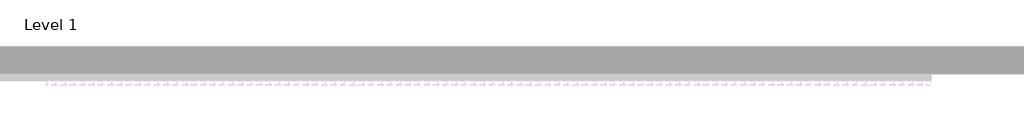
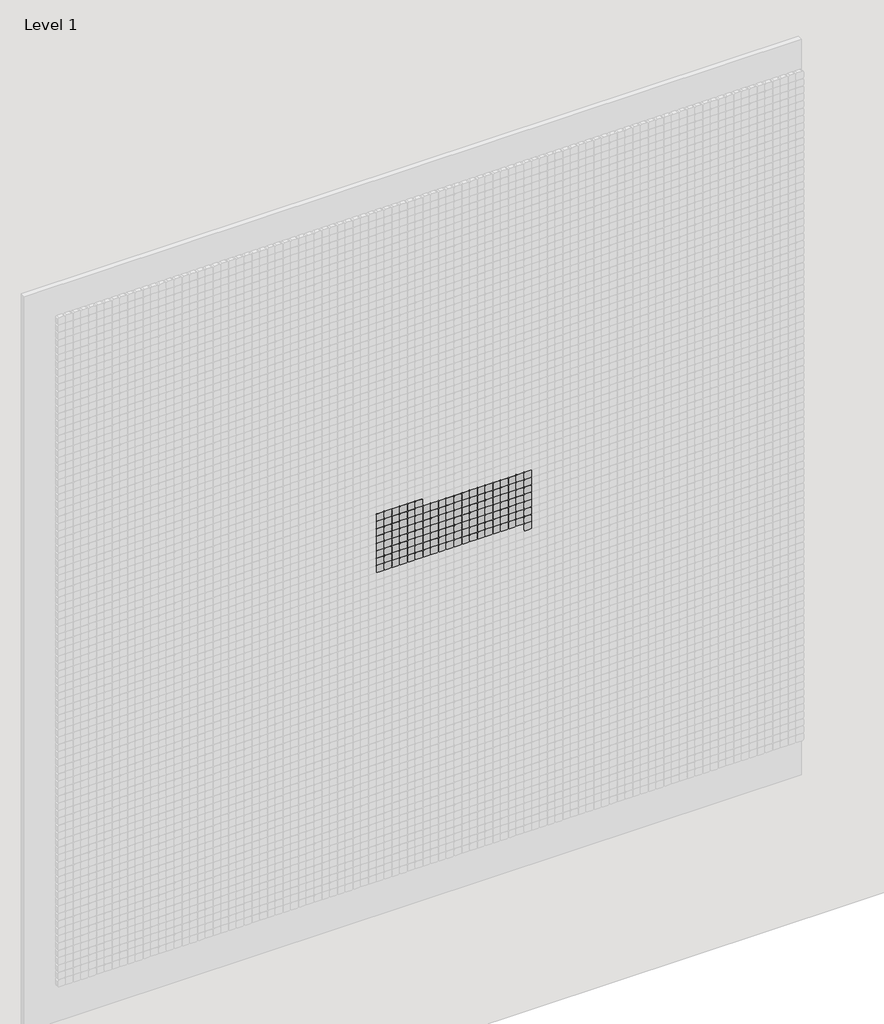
# One storey, part 41 of 71: 147 proxies.
"""IFC4 building model written with IfcOpenShell, lengths in millimetres."""

from ifc_helpers import new_model, si_unit, origin, place, context, project, spatial, transform, mapped, element, save
from components import generic_models_afde289c

model = new_model("IFC4")

# Units and contexts
model_context = context("Model", 3, world=origin())
ifc_project = project(units=[si_unit("LENGTHUNIT", "METRE", prefix="MILLI")], contexts=[model_context])

# Site, building, storey
site = spatial("IfcSite", under=ifc_project)
building = spatial("IfcBuilding", under=site)
storey = spatial("IfcBuildingStorey", under=building, Name="Level 1", Elevation=0.0)

# Proxies
placement = place(None, origin())
generic_models_shape = generic_models_afde289c(model_context)
element("IfcBuildingElementProxy", 1, Name="Pixel_M : Pixel_M", ObjectType="Pixel_M : Pixel_M", at=placement, inside=storey, context=model_context, shape_type="MappedRepresentation", body=[
    mapped(generic_models_shape, transform((7262.4280941, -75.0, 3716.3566215), x_axis=(1.0, 0.0, 0.0), y_axis=(0.0, 0.0, 1.0), z_axis=(0.0, -1.0, 0.0))),
])
element("IfcBuildingElementProxy", 2, Name="Pixel_M : Pixel_M", ObjectType="Pixel_M : Pixel_M", at=placement, inside=storey, context=model_context, shape_type="MappedRepresentation", body=[
    mapped(generic_models_shape, transform((7212.4280941, -75.0, 3716.3566215), x_axis=(1.0, 0.0, 0.0), y_axis=(0.0, 0.0, 1.0), z_axis=(0.0, -1.0, 0.0))),
])
element("IfcBuildingElementProxy", 3, Name="Pixel_M : Pixel_M", ObjectType="Pixel_M : Pixel_M", at=placement, inside=storey, context=model_context, shape_type="MappedRepresentation", body=[
    mapped(generic_models_shape, transform((7162.4280941, -75.0, 3716.3566215), x_axis=(1.0, 0.0, 0.0), y_axis=(0.0, 0.0, 1.0), z_axis=(0.0, -1.0, 0.0))),
])
element("IfcBuildingElementProxy", 4, Name="Pixel_M : Pixel_M", ObjectType="Pixel_M : Pixel_M", at=placement, inside=storey, context=model_context, shape_type="MappedRepresentation", body=[
    mapped(generic_models_shape, transform((7112.4280941, -75.0, 3716.3566215), x_axis=(1.0, 0.0, 0.0), y_axis=(0.0, 0.0, 1.0), z_axis=(0.0, -1.0, 0.0))),
])
element("IfcBuildingElementProxy", 5, Name="Pixel_M : Pixel_M", ObjectType="Pixel_M : Pixel_M", at=placement, inside=storey, context=model_context, shape_type="MappedRepresentation", body=[
    mapped(generic_models_shape, transform((7062.4280941, -75.0, 3716.3566215), x_axis=(1.0, 0.0, 0.0), y_axis=(0.0, 0.0, 1.0), z_axis=(0.0, -1.0, 0.0))),
])
element("IfcBuildingElementProxy", 6, Name="Pixel_M : Pixel_M", ObjectType="Pixel_M : Pixel_M", at=placement, inside=storey, context=model_context, shape_type="MappedRepresentation", body=[
    mapped(generic_models_shape, transform((7012.4280941, -75.0, 3716.3566215), x_axis=(1.0, 0.0, 0.0), y_axis=(0.0, 0.0, 1.0), z_axis=(0.0, -1.0, 0.0))),
])
element("IfcBuildingElementProxy", 7, Name="Pixel_M : Pixel_M", ObjectType="Pixel_M : Pixel_M", at=placement, inside=storey, context=model_context, shape_type="MappedRepresentation", body=[
    mapped(generic_models_shape, transform((7962.4280941, -75.0, 3666.3566215), x_axis=(1.0, 0.0, 0.0), y_axis=(0.0, 0.0, 1.0), z_axis=(0.0, -1.0, 0.0))),
])
element("IfcBuildingElementProxy", 8, Name="Pixel_M : Pixel_M", ObjectType="Pixel_M : Pixel_M", at=placement, inside=storey, context=model_context, shape_type="MappedRepresentation", body=[
    mapped(generic_models_shape, transform((7912.4280941, -75.0, 3666.3566215), x_axis=(1.0, 0.0, 0.0), y_axis=(0.0, 0.0, 1.0), z_axis=(0.0, -1.0, 0.0))),
])
element("IfcBuildingElementProxy", 9, Name="Pixel_M : Pixel_M", ObjectType="Pixel_M : Pixel_M", at=placement, inside=storey, context=model_context, shape_type="MappedRepresentation", body=[
    mapped(generic_models_shape, transform((7862.4280941, -75.0, 3666.3566215), x_axis=(1.0, 0.0, 0.0), y_axis=(0.0, 0.0, 1.0), z_axis=(0.0, -1.0, 0.0))),
])
element("IfcBuildingElementProxy", 10, Name="Pixel_M : Pixel_M", ObjectType="Pixel_M : Pixel_M", at=placement, inside=storey, context=model_context, shape_type="MappedRepresentation", body=[
    mapped(generic_models_shape, transform((7812.4280941, -75.0, 3666.3566215), x_axis=(1.0, 0.0, 0.0), y_axis=(0.0, 0.0, 1.0), z_axis=(0.0, -1.0, 0.0))),
])
element("IfcBuildingElementProxy", 11, Name="Pixel_M : Pixel_M", ObjectType="Pixel_M : Pixel_M", at=placement, inside=storey, context=model_context, shape_type="MappedRepresentation", body=[
    mapped(generic_models_shape, transform((7762.4280941, -75.0, 3666.3566215), x_axis=(1.0, 0.0, 0.0), y_axis=(0.0, 0.0, 1.0), z_axis=(0.0, -1.0, 0.0))),
])
element("IfcBuildingElementProxy", 12, Name="Pixel_M : Pixel_M", ObjectType="Pixel_M : Pixel_M", at=placement, inside=storey, context=model_context, shape_type="MappedRepresentation", body=[
    mapped(generic_models_shape, transform((7712.4280941, -75.0, 3666.3566215), x_axis=(1.0, 0.0, 0.0), y_axis=(0.0, 0.0, 1.0), z_axis=(0.0, -1.0, 0.0))),
])
element("IfcBuildingElementProxy", 13, Name="Pixel_M : Pixel_M", ObjectType="Pixel_M : Pixel_M", at=placement, inside=storey, context=model_context, shape_type="MappedRepresentation", body=[
    mapped(generic_models_shape, transform((7662.4280941, -75.0, 3666.3566215), x_axis=(1.0, 0.0, 0.0), y_axis=(0.0, 0.0, 1.0), z_axis=(0.0, -1.0, 0.0))),
])
element("IfcBuildingElementProxy", 14, Name="Pixel_M : Pixel_M", ObjectType="Pixel_M : Pixel_M", at=placement, inside=storey, context=model_context, shape_type="MappedRepresentation", body=[
    mapped(generic_models_shape, transform((7612.4280941, -75.0, 3666.3566215), x_axis=(1.0, 0.0, 0.0), y_axis=(0.0, 0.0, 1.0), z_axis=(0.0, -1.0, 0.0))),
])
element("IfcBuildingElementProxy", 15, Name="Pixel_M : Pixel_M", ObjectType="Pixel_M : Pixel_M", at=placement, inside=storey, context=model_context, shape_type="MappedRepresentation", body=[
    mapped(generic_models_shape, transform((7562.4280941, -75.0, 3666.3566215), x_axis=(1.0, 0.0, 0.0), y_axis=(0.0, 0.0, 1.0), z_axis=(0.0, -1.0, 0.0))),
])
element("IfcBuildingElementProxy", 16, Name="Pixel_M : Pixel_M", ObjectType="Pixel_M : Pixel_M", at=placement, inside=storey, context=model_context, shape_type="MappedRepresentation", body=[
    mapped(generic_models_shape, transform((7512.4280941, -75.0, 3666.3566215), x_axis=(1.0, 0.0, 0.0), y_axis=(0.0, 0.0, 1.0), z_axis=(0.0, -1.0, 0.0))),
])
element("IfcBuildingElementProxy", 17, Name="Pixel_M : Pixel_M", ObjectType="Pixel_M : Pixel_M", at=placement, inside=storey, context=model_context, shape_type="MappedRepresentation", body=[
    mapped(generic_models_shape, transform((7462.4280941, -75.0, 3666.3566215), x_axis=(1.0, 0.0, 0.0), y_axis=(0.0, 0.0, 1.0), z_axis=(0.0, -1.0, 0.0))),
])
element("IfcBuildingElementProxy", 18, Name="Pixel_M : Pixel_M", ObjectType="Pixel_M : Pixel_M", at=placement, inside=storey, context=model_context, shape_type="MappedRepresentation", body=[
    mapped(generic_models_shape, transform((7412.4280941, -75.0, 3666.3566215), x_axis=(1.0, 0.0, 0.0), y_axis=(0.0, 0.0, 1.0), z_axis=(0.0, -1.0, 0.0))),
])
element("IfcBuildingElementProxy", 19, Name="Pixel_M : Pixel_M", ObjectType="Pixel_M : Pixel_M", at=placement, inside=storey, context=model_context, shape_type="MappedRepresentation", body=[
    mapped(generic_models_shape, transform((7362.4280941, -75.0, 3666.3566215), x_axis=(1.0, 0.0, 0.0), y_axis=(0.0, 0.0, 1.0), z_axis=(0.0, -1.0, 0.0))),
])
element("IfcBuildingElementProxy", 20, Name="Pixel_M : Pixel_M", ObjectType="Pixel_M : Pixel_M", at=placement, inside=storey, context=model_context, shape_type="MappedRepresentation", body=[
    mapped(generic_models_shape, transform((7312.4280941, -75.0, 3666.3566215), x_axis=(1.0, 0.0, 0.0), y_axis=(0.0, 0.0, 1.0), z_axis=(0.0, -1.0, 0.0))),
])
element("IfcBuildingElementProxy", 21, Name="Pixel_M : Pixel_M", ObjectType="Pixel_M : Pixel_M", at=placement, inside=storey, context=model_context, shape_type="MappedRepresentation", body=[
    mapped(generic_models_shape, transform((7262.4280941, -75.0, 3666.3566215), x_axis=(1.0, 0.0, 0.0), y_axis=(0.0, 0.0, 1.0), z_axis=(0.0, -1.0, 0.0))),
])
element("IfcBuildingElementProxy", 22, Name="Pixel_M : Pixel_M", ObjectType="Pixel_M : Pixel_M", at=placement, inside=storey, context=model_context, shape_type="MappedRepresentation", body=[
    mapped(generic_models_shape, transform((7212.4280941, -75.0, 3666.3566215), x_axis=(1.0, 0.0, 0.0), y_axis=(0.0, 0.0, 1.0), z_axis=(0.0, -1.0, 0.0))),
])
element("IfcBuildingElementProxy", 23, Name="Pixel_M : Pixel_M", ObjectType="Pixel_M : Pixel_M", at=placement, inside=storey, context=model_context, shape_type="MappedRepresentation", body=[
    mapped(generic_models_shape, transform((7162.4280941, -75.0, 3666.3566215), x_axis=(1.0, 0.0, 0.0), y_axis=(0.0, 0.0, 1.0), z_axis=(0.0, -1.0, 0.0))),
])
element("IfcBuildingElementProxy", 24, Name="Pixel_M : Pixel_M", ObjectType="Pixel_M : Pixel_M", at=placement, inside=storey, context=model_context, shape_type="MappedRepresentation", body=[
    mapped(generic_models_shape, transform((7112.4280941, -75.0, 3666.3566215), x_axis=(1.0, 0.0, 0.0), y_axis=(0.0, 0.0, 1.0), z_axis=(0.0, -1.0, 0.0))),
])
element("IfcBuildingElementProxy", 25, Name="Pixel_M : Pixel_M", ObjectType="Pixel_M : Pixel_M", at=placement, inside=storey, context=model_context, shape_type="MappedRepresentation", body=[
    mapped(generic_models_shape, transform((7062.4280941, -75.0, 3666.3566215), x_axis=(1.0, 0.0, 0.0), y_axis=(0.0, 0.0, 1.0), z_axis=(0.0, -1.0, 0.0))),
])
element("IfcBuildingElementProxy", 26, Name="Pixel_M : Pixel_M", ObjectType="Pixel_M : Pixel_M", at=placement, inside=storey, context=model_context, shape_type="MappedRepresentation", body=[
    mapped(generic_models_shape, transform((7012.4280941, -75.0, 3666.3566215), x_axis=(1.0, 0.0, 0.0), y_axis=(0.0, 0.0, 1.0), z_axis=(0.0, -1.0, 0.0))),
])
element("IfcBuildingElementProxy", 27, Name="Pixel_M : Pixel_M", ObjectType="Pixel_M : Pixel_M", at=placement, inside=storey, context=model_context, shape_type="MappedRepresentation", body=[
    mapped(generic_models_shape, transform((7962.4280941, -75.0, 3616.3566215), x_axis=(1.0, 0.0, 0.0), y_axis=(0.0, 0.0, 1.0), z_axis=(0.0, -1.0, 0.0))),
])
element("IfcBuildingElementProxy", 28, Name="Pixel_M : Pixel_M", ObjectType="Pixel_M : Pixel_M", at=placement, inside=storey, context=model_context, shape_type="MappedRepresentation", body=[
    mapped(generic_models_shape, transform((7912.4280941, -75.0, 3616.3566215), x_axis=(1.0, 0.0, 0.0), y_axis=(0.0, 0.0, 1.0), z_axis=(0.0, -1.0, 0.0))),
])
element("IfcBuildingElementProxy", 29, Name="Pixel_M : Pixel_M", ObjectType="Pixel_M : Pixel_M", at=placement, inside=storey, context=model_context, shape_type="MappedRepresentation", body=[
    mapped(generic_models_shape, transform((7862.4280941, -75.0, 3616.3566215), x_axis=(1.0, 0.0, 0.0), y_axis=(0.0, 0.0, 1.0), z_axis=(0.0, -1.0, 0.0))),
])
element("IfcBuildingElementProxy", 30, Name="Pixel_M : Pixel_M", ObjectType="Pixel_M : Pixel_M", at=placement, inside=storey, context=model_context, shape_type="MappedRepresentation", body=[
    mapped(generic_models_shape, transform((7812.4280941, -75.0, 3616.3566215), x_axis=(1.0, 0.0, 0.0), y_axis=(0.0, 0.0, 1.0), z_axis=(0.0, -1.0, 0.0))),
])
element("IfcBuildingElementProxy", 31, Name="Pixel_M : Pixel_M", ObjectType="Pixel_M : Pixel_M", at=placement, inside=storey, context=model_context, shape_type="MappedRepresentation", body=[
    mapped(generic_models_shape, transform((7762.4280941, -75.0, 3616.3566215), x_axis=(1.0, 0.0, 0.0), y_axis=(0.0, 0.0, 1.0), z_axis=(0.0, -1.0, 0.0))),
])
element("IfcBuildingElementProxy", 32, Name="Pixel_M : Pixel_M", ObjectType="Pixel_M : Pixel_M", at=placement, inside=storey, context=model_context, shape_type="MappedRepresentation", body=[
    mapped(generic_models_shape, transform((7712.4280941, -75.0, 3616.3566215), x_axis=(1.0, 0.0, 0.0), y_axis=(0.0, 0.0, 1.0), z_axis=(0.0, -1.0, 0.0))),
])
element("IfcBuildingElementProxy", 33, Name="Pixel_M : Pixel_M", ObjectType="Pixel_M : Pixel_M", at=placement, inside=storey, context=model_context, shape_type="MappedRepresentation", body=[
    mapped(generic_models_shape, transform((7662.4280941, -75.0, 3616.3566215), x_axis=(1.0, 0.0, 0.0), y_axis=(0.0, 0.0, 1.0), z_axis=(0.0, -1.0, 0.0))),
])
element("IfcBuildingElementProxy", 34, Name="Pixel_M : Pixel_M", ObjectType="Pixel_M : Pixel_M", at=placement, inside=storey, context=model_context, shape_type="MappedRepresentation", body=[
    mapped(generic_models_shape, transform((7612.4280941, -75.0, 3616.3566215), x_axis=(1.0, 0.0, 0.0), y_axis=(0.0, 0.0, 1.0), z_axis=(0.0, -1.0, 0.0))),
])
element("IfcBuildingElementProxy", 35, Name="Pixel_M : Pixel_M", ObjectType="Pixel_M : Pixel_M", at=placement, inside=storey, context=model_context, shape_type="MappedRepresentation", body=[
    mapped(generic_models_shape, transform((7562.4280941, -75.0, 3616.3566215), x_axis=(1.0, 0.0, 0.0), y_axis=(0.0, 0.0, 1.0), z_axis=(0.0, -1.0, 0.0))),
])
element("IfcBuildingElementProxy", 36, Name="Pixel_M : Pixel_M", ObjectType="Pixel_M : Pixel_M", at=placement, inside=storey, context=model_context, shape_type="MappedRepresentation", body=[
    mapped(generic_models_shape, transform((7512.4280941, -75.0, 3616.3566215), x_axis=(1.0, 0.0, 0.0), y_axis=(0.0, 0.0, 1.0), z_axis=(0.0, -1.0, 0.0))),
])
element("IfcBuildingElementProxy", 37, Name="Pixel_M : Pixel_M", ObjectType="Pixel_M : Pixel_M", at=placement, inside=storey, context=model_context, shape_type="MappedRepresentation", body=[
    mapped(generic_models_shape, transform((7462.4280941, -75.0, 3616.3566215), x_axis=(1.0, 0.0, 0.0), y_axis=(0.0, 0.0, 1.0), z_axis=(0.0, -1.0, 0.0))),
])
element("IfcBuildingElementProxy", 38, Name="Pixel_M : Pixel_M", ObjectType="Pixel_M : Pixel_M", at=placement, inside=storey, context=model_context, shape_type="MappedRepresentation", body=[
    mapped(generic_models_shape, transform((7412.4280941, -75.0, 3616.3566215), x_axis=(1.0, 0.0, 0.0), y_axis=(0.0, 0.0, 1.0), z_axis=(0.0, -1.0, 0.0))),
])
element("IfcBuildingElementProxy", 39, Name="Pixel_M : Pixel_M", ObjectType="Pixel_M : Pixel_M", at=placement, inside=storey, context=model_context, shape_type="MappedRepresentation", body=[
    mapped(generic_models_shape, transform((7362.4280941, -75.0, 3616.3566215), x_axis=(1.0, 0.0, 0.0), y_axis=(0.0, 0.0, 1.0), z_axis=(0.0, -1.0, 0.0))),
])
element("IfcBuildingElementProxy", 40, Name="Pixel_M : Pixel_M", ObjectType="Pixel_M : Pixel_M", at=placement, inside=storey, context=model_context, shape_type="MappedRepresentation", body=[
    mapped(generic_models_shape, transform((7312.4280941, -75.0, 3616.3566215), x_axis=(1.0, 0.0, 0.0), y_axis=(0.0, 0.0, 1.0), z_axis=(0.0, -1.0, 0.0))),
])
element("IfcBuildingElementProxy", 41, Name="Pixel_M : Pixel_M", ObjectType="Pixel_M : Pixel_M", at=placement, inside=storey, context=model_context, shape_type="MappedRepresentation", body=[
    mapped(generic_models_shape, transform((7262.4280941, -75.0, 3616.3566215), x_axis=(1.0, 0.0, 0.0), y_axis=(0.0, 0.0, 1.0), z_axis=(0.0, -1.0, 0.0))),
])
element("IfcBuildingElementProxy", 42, Name="Pixel_M : Pixel_M", ObjectType="Pixel_M : Pixel_M", at=placement, inside=storey, context=model_context, shape_type="MappedRepresentation", body=[
    mapped(generic_models_shape, transform((7212.4280941, -75.0, 3616.3566215), x_axis=(1.0, 0.0, 0.0), y_axis=(0.0, 0.0, 1.0), z_axis=(0.0, -1.0, 0.0))),
])
element("IfcBuildingElementProxy", 43, Name="Pixel_M : Pixel_M", ObjectType="Pixel_M : Pixel_M", at=placement, inside=storey, context=model_context, shape_type="MappedRepresentation", body=[
    mapped(generic_models_shape, transform((7162.4280941, -75.0, 3616.3566215), x_axis=(1.0, 0.0, 0.0), y_axis=(0.0, 0.0, 1.0), z_axis=(0.0, -1.0, 0.0))),
])
element("IfcBuildingElementProxy", 44, Name="Pixel_M : Pixel_M", ObjectType="Pixel_M : Pixel_M", at=placement, inside=storey, context=model_context, shape_type="MappedRepresentation", body=[
    mapped(generic_models_shape, transform((7112.4280941, -75.0, 3616.3566215), x_axis=(1.0, 0.0, 0.0), y_axis=(0.0, 0.0, 1.0), z_axis=(0.0, -1.0, 0.0))),
])
element("IfcBuildingElementProxy", 45, Name="Pixel_M : Pixel_M", ObjectType="Pixel_M : Pixel_M", at=placement, inside=storey, context=model_context, shape_type="MappedRepresentation", body=[
    mapped(generic_models_shape, transform((7062.4280941, -75.0, 3616.3566215), x_axis=(1.0, 0.0, 0.0), y_axis=(0.0, 0.0, 1.0), z_axis=(0.0, -1.0, 0.0))),
])
element("IfcBuildingElementProxy", 46, Name="Pixel_M : Pixel_M", ObjectType="Pixel_M : Pixel_M", at=placement, inside=storey, context=model_context, shape_type="MappedRepresentation", body=[
    mapped(generic_models_shape, transform((7012.4280941, -75.0, 3616.3566215), x_axis=(1.0, 0.0, 0.0), y_axis=(0.0, 0.0, 1.0), z_axis=(0.0, -1.0, 0.0))),
])
element("IfcBuildingElementProxy", 47, Name="Pixel_M : Pixel_M", ObjectType="Pixel_M : Pixel_M", at=placement, inside=storey, context=model_context, shape_type="MappedRepresentation", body=[
    mapped(generic_models_shape, transform((7962.4280941, -75.0, 3566.3566215), x_axis=(1.0, 0.0, 0.0), y_axis=(0.0, 0.0, 1.0), z_axis=(0.0, -1.0, 0.0))),
])
element("IfcBuildingElementProxy", 48, Name="Pixel_M : Pixel_M", ObjectType="Pixel_M : Pixel_M", at=placement, inside=storey, context=model_context, shape_type="MappedRepresentation", body=[
    mapped(generic_models_shape, transform((7912.4280941, -75.0, 3566.3566215), x_axis=(1.0, 0.0, 0.0), y_axis=(0.0, 0.0, 1.0), z_axis=(0.0, -1.0, 0.0))),
])
element("IfcBuildingElementProxy", 49, Name="Pixel_M : Pixel_M", ObjectType="Pixel_M : Pixel_M", at=placement, inside=storey, context=model_context, shape_type="MappedRepresentation", body=[
    mapped(generic_models_shape, transform((7862.4280941, -75.0, 3566.3566215), x_axis=(1.0, 0.0, 0.0), y_axis=(0.0, 0.0, 1.0), z_axis=(0.0, -1.0, 0.0))),
])
element("IfcBuildingElementProxy", 50, Name="Pixel_M : Pixel_M", ObjectType="Pixel_M : Pixel_M", at=placement, inside=storey, context=model_context, shape_type="MappedRepresentation", body=[
    mapped(generic_models_shape, transform((7812.4280941, -75.0, 3566.3566215), x_axis=(1.0, 0.0, 0.0), y_axis=(0.0, 0.0, 1.0), z_axis=(0.0, -1.0, 0.0))),
])
element("IfcBuildingElementProxy", 51, Name="Pixel_M : Pixel_M", ObjectType="Pixel_M : Pixel_M", at=placement, inside=storey, context=model_context, shape_type="MappedRepresentation", body=[
    mapped(generic_models_shape, transform((7762.4280941, -75.0, 3566.3566215), x_axis=(1.0, 0.0, 0.0), y_axis=(0.0, 0.0, 1.0), z_axis=(0.0, -1.0, 0.0))),
])
element("IfcBuildingElementProxy", 52, Name="Pixel_M : Pixel_M", ObjectType="Pixel_M : Pixel_M", at=placement, inside=storey, context=model_context, shape_type="MappedRepresentation", body=[
    mapped(generic_models_shape, transform((7712.4280941, -75.0, 3566.3566215), x_axis=(1.0, 0.0, 0.0), y_axis=(0.0, 0.0, 1.0), z_axis=(0.0, -1.0, 0.0))),
])
element("IfcBuildingElementProxy", 53, Name="Pixel_M : Pixel_M", ObjectType="Pixel_M : Pixel_M", at=placement, inside=storey, context=model_context, shape_type="MappedRepresentation", body=[
    mapped(generic_models_shape, transform((7662.4280941, -75.0, 3566.3566215), x_axis=(1.0, 0.0, 0.0), y_axis=(0.0, 0.0, 1.0), z_axis=(0.0, -1.0, 0.0))),
])
element("IfcBuildingElementProxy", 54, Name="Pixel_M : Pixel_M", ObjectType="Pixel_M : Pixel_M", at=placement, inside=storey, context=model_context, shape_type="MappedRepresentation", body=[
    mapped(generic_models_shape, transform((7612.4280941, -75.0, 3566.3566215), x_axis=(1.0, 0.0, 0.0), y_axis=(0.0, 0.0, 1.0), z_axis=(0.0, -1.0, 0.0))),
])
element("IfcBuildingElementProxy", 55, Name="Pixel_M : Pixel_M", ObjectType="Pixel_M : Pixel_M", at=placement, inside=storey, context=model_context, shape_type="MappedRepresentation", body=[
    mapped(generic_models_shape, transform((7562.4280941, -75.0, 3566.3566215), x_axis=(1.0, 0.0, 0.0), y_axis=(0.0, 0.0, 1.0), z_axis=(0.0, -1.0, 0.0))),
])
element("IfcBuildingElementProxy", 56, Name="Pixel_M : Pixel_M", ObjectType="Pixel_M : Pixel_M", at=placement, inside=storey, context=model_context, shape_type="MappedRepresentation", body=[
    mapped(generic_models_shape, transform((7512.4280941, -75.0, 3566.3566215), x_axis=(1.0, 0.0, 0.0), y_axis=(0.0, 0.0, 1.0), z_axis=(0.0, -1.0, 0.0))),
])
element("IfcBuildingElementProxy", 57, Name="Pixel_M : Pixel_M", ObjectType="Pixel_M : Pixel_M", at=placement, inside=storey, context=model_context, shape_type="MappedRepresentation", body=[
    mapped(generic_models_shape, transform((7462.4280941, -75.0, 3566.3566215), x_axis=(1.0, 0.0, 0.0), y_axis=(0.0, 0.0, 1.0), z_axis=(0.0, -1.0, 0.0))),
])
element("IfcBuildingElementProxy", 58, Name="Pixel_M : Pixel_M", ObjectType="Pixel_M : Pixel_M", at=placement, inside=storey, context=model_context, shape_type="MappedRepresentation", body=[
    mapped(generic_models_shape, transform((7412.4280941, -75.0, 3566.3566215), x_axis=(1.0, 0.0, 0.0), y_axis=(0.0, 0.0, 1.0), z_axis=(0.0, -1.0, 0.0))),
])
element("IfcBuildingElementProxy", 59, Name="Pixel_M : Pixel_M", ObjectType="Pixel_M : Pixel_M", at=placement, inside=storey, context=model_context, shape_type="MappedRepresentation", body=[
    mapped(generic_models_shape, transform((7362.4280941, -75.0, 3566.3566215), x_axis=(1.0, 0.0, 0.0), y_axis=(0.0, 0.0, 1.0), z_axis=(0.0, -1.0, 0.0))),
])
element("IfcBuildingElementProxy", 60, Name="Pixel_M : Pixel_M", ObjectType="Pixel_M : Pixel_M", at=placement, inside=storey, context=model_context, shape_type="MappedRepresentation", body=[
    mapped(generic_models_shape, transform((7312.4280941, -75.0, 3566.3566215), x_axis=(1.0, 0.0, 0.0), y_axis=(0.0, 0.0, 1.0), z_axis=(0.0, -1.0, 0.0))),
])
element("IfcBuildingElementProxy", 61, Name="Pixel_M : Pixel_M", ObjectType="Pixel_M : Pixel_M", at=placement, inside=storey, context=model_context, shape_type="MappedRepresentation", body=[
    mapped(generic_models_shape, transform((7262.4280941, -75.0, 3566.3566215), x_axis=(1.0, 0.0, 0.0), y_axis=(0.0, 0.0, 1.0), z_axis=(0.0, -1.0, 0.0))),
])
element("IfcBuildingElementProxy", 62, Name="Pixel_M : Pixel_M", ObjectType="Pixel_M : Pixel_M", at=placement, inside=storey, context=model_context, shape_type="MappedRepresentation", body=[
    mapped(generic_models_shape, transform((7212.4280941, -75.0, 3566.3566215), x_axis=(1.0, 0.0, 0.0), y_axis=(0.0, 0.0, 1.0), z_axis=(0.0, -1.0, 0.0))),
])
element("IfcBuildingElementProxy", 63, Name="Pixel_M : Pixel_M", ObjectType="Pixel_M : Pixel_M", at=placement, inside=storey, context=model_context, shape_type="MappedRepresentation", body=[
    mapped(generic_models_shape, transform((7162.4280941, -75.0, 3566.3566215), x_axis=(1.0, 0.0, 0.0), y_axis=(0.0, 0.0, 1.0), z_axis=(0.0, -1.0, 0.0))),
])
element("IfcBuildingElementProxy", 64, Name="Pixel_M : Pixel_M", ObjectType="Pixel_M : Pixel_M", at=placement, inside=storey, context=model_context, shape_type="MappedRepresentation", body=[
    mapped(generic_models_shape, transform((7112.4280941, -75.0, 3566.3566215), x_axis=(1.0, 0.0, 0.0), y_axis=(0.0, 0.0, 1.0), z_axis=(0.0, -1.0, 0.0))),
])
element("IfcBuildingElementProxy", 65, Name="Pixel_M : Pixel_M", ObjectType="Pixel_M : Pixel_M", at=placement, inside=storey, context=model_context, shape_type="MappedRepresentation", body=[
    mapped(generic_models_shape, transform((7062.4280941, -75.0, 3566.3566215), x_axis=(1.0, 0.0, 0.0), y_axis=(0.0, 0.0, 1.0), z_axis=(0.0, -1.0, 0.0))),
])
element("IfcBuildingElementProxy", 66, Name="Pixel_M : Pixel_M", ObjectType="Pixel_M : Pixel_M", at=placement, inside=storey, context=model_context, shape_type="MappedRepresentation", body=[
    mapped(generic_models_shape, transform((7012.4280941, -75.0, 3566.3566215), x_axis=(1.0, 0.0, 0.0), y_axis=(0.0, 0.0, 1.0), z_axis=(0.0, -1.0, 0.0))),
])
element("IfcBuildingElementProxy", 67, Name="Pixel_M : Pixel_M", ObjectType="Pixel_M : Pixel_M", at=placement, inside=storey, context=model_context, shape_type="MappedRepresentation", body=[
    mapped(generic_models_shape, transform((7962.4280941, -75.0, 3516.3566215), x_axis=(1.0, 0.0, 0.0), y_axis=(0.0, 0.0, 1.0), z_axis=(0.0, -1.0, 0.0))),
])
element("IfcBuildingElementProxy", 68, Name="Pixel_M : Pixel_M", ObjectType="Pixel_M : Pixel_M", at=placement, inside=storey, context=model_context, shape_type="MappedRepresentation", body=[
    mapped(generic_models_shape, transform((7912.4280941, -75.0, 3516.3566215), x_axis=(1.0, 0.0, 0.0), y_axis=(0.0, 0.0, 1.0), z_axis=(0.0, -1.0, 0.0))),
])
element("IfcBuildingElementProxy", 69, Name="Pixel_M : Pixel_M", ObjectType="Pixel_M : Pixel_M", at=placement, inside=storey, context=model_context, shape_type="MappedRepresentation", body=[
    mapped(generic_models_shape, transform((7862.4280941, -75.0, 3516.3566215), x_axis=(1.0, 0.0, 0.0), y_axis=(0.0, 0.0, 1.0), z_axis=(0.0, -1.0, 0.0))),
])
element("IfcBuildingElementProxy", 70, Name="Pixel_M : Pixel_M", ObjectType="Pixel_M : Pixel_M", at=placement, inside=storey, context=model_context, shape_type="MappedRepresentation", body=[
    mapped(generic_models_shape, transform((7812.4280941, -75.0, 3516.3566215), x_axis=(1.0, 0.0, 0.0), y_axis=(0.0, 0.0, 1.0), z_axis=(0.0, -1.0, 0.0))),
])
element("IfcBuildingElementProxy", 71, Name="Pixel_M : Pixel_M", ObjectType="Pixel_M : Pixel_M", at=placement, inside=storey, context=model_context, shape_type="MappedRepresentation", body=[
    mapped(generic_models_shape, transform((7762.4280941, -75.0, 3516.3566215), x_axis=(1.0, 0.0, 0.0), y_axis=(0.0, 0.0, 1.0), z_axis=(0.0, -1.0, 0.0))),
])
element("IfcBuildingElementProxy", 72, Name="Pixel_M : Pixel_M", ObjectType="Pixel_M : Pixel_M", at=placement, inside=storey, context=model_context, shape_type="MappedRepresentation", body=[
    mapped(generic_models_shape, transform((7712.4280941, -75.0, 3516.3566215), x_axis=(1.0, 0.0, 0.0), y_axis=(0.0, 0.0, 1.0), z_axis=(0.0, -1.0, 0.0))),
])
element("IfcBuildingElementProxy", 73, Name="Pixel_M : Pixel_M", ObjectType="Pixel_M : Pixel_M", at=placement, inside=storey, context=model_context, shape_type="MappedRepresentation", body=[
    mapped(generic_models_shape, transform((7662.4280941, -75.0, 3516.3566215), x_axis=(1.0, 0.0, 0.0), y_axis=(0.0, 0.0, 1.0), z_axis=(0.0, -1.0, 0.0))),
])
element("IfcBuildingElementProxy", 74, Name="Pixel_M : Pixel_M", ObjectType="Pixel_M : Pixel_M", at=placement, inside=storey, context=model_context, shape_type="MappedRepresentation", body=[
    mapped(generic_models_shape, transform((7612.4280941, -75.0, 3516.3566215), x_axis=(1.0, 0.0, 0.0), y_axis=(0.0, 0.0, 1.0), z_axis=(0.0, -1.0, 0.0))),
])
element("IfcBuildingElementProxy", 75, Name="Pixel_M : Pixel_M", ObjectType="Pixel_M : Pixel_M", at=placement, inside=storey, context=model_context, shape_type="MappedRepresentation", body=[
    mapped(generic_models_shape, transform((7562.4280941, -75.0, 3516.3566215), x_axis=(1.0, 0.0, 0.0), y_axis=(0.0, 0.0, 1.0), z_axis=(0.0, -1.0, 0.0))),
])
element("IfcBuildingElementProxy", 76, Name="Pixel_M : Pixel_M", ObjectType="Pixel_M : Pixel_M", at=placement, inside=storey, context=model_context, shape_type="MappedRepresentation", body=[
    mapped(generic_models_shape, transform((7512.4280941, -75.0, 3516.3566215), x_axis=(1.0, 0.0, 0.0), y_axis=(0.0, 0.0, 1.0), z_axis=(0.0, -1.0, 0.0))),
])
element("IfcBuildingElementProxy", 77, Name="Pixel_M : Pixel_M", ObjectType="Pixel_M : Pixel_M", at=placement, inside=storey, context=model_context, shape_type="MappedRepresentation", body=[
    mapped(generic_models_shape, transform((7462.4280941, -75.0, 3516.3566215), x_axis=(1.0, 0.0, 0.0), y_axis=(0.0, 0.0, 1.0), z_axis=(0.0, -1.0, 0.0))),
])
element("IfcBuildingElementProxy", 78, Name="Pixel_M : Pixel_M", ObjectType="Pixel_M : Pixel_M", at=placement, inside=storey, context=model_context, shape_type="MappedRepresentation", body=[
    mapped(generic_models_shape, transform((7412.4280941, -75.0, 3516.3566215), x_axis=(1.0, 0.0, 0.0), y_axis=(0.0, 0.0, 1.0), z_axis=(0.0, -1.0, 0.0))),
])
element("IfcBuildingElementProxy", 79, Name="Pixel_M : Pixel_M", ObjectType="Pixel_M : Pixel_M", at=placement, inside=storey, context=model_context, shape_type="MappedRepresentation", body=[
    mapped(generic_models_shape, transform((7362.4280941, -75.0, 3516.3566215), x_axis=(1.0, 0.0, 0.0), y_axis=(0.0, 0.0, 1.0), z_axis=(0.0, -1.0, 0.0))),
])
element("IfcBuildingElementProxy", 80, Name="Pixel_M : Pixel_M", ObjectType="Pixel_M : Pixel_M", at=placement, inside=storey, context=model_context, shape_type="MappedRepresentation", body=[
    mapped(generic_models_shape, transform((7312.4280941, -75.0, 3516.3566215), x_axis=(1.0, 0.0, 0.0), y_axis=(0.0, 0.0, 1.0), z_axis=(0.0, -1.0, 0.0))),
])
element("IfcBuildingElementProxy", 81, Name="Pixel_M : Pixel_M", ObjectType="Pixel_M : Pixel_M", at=placement, inside=storey, context=model_context, shape_type="MappedRepresentation", body=[
    mapped(generic_models_shape, transform((7262.4280941, -75.0, 3516.3566215), x_axis=(1.0, 0.0, 0.0), y_axis=(0.0, 0.0, 1.0), z_axis=(0.0, -1.0, 0.0))),
])
element("IfcBuildingElementProxy", 82, Name="Pixel_M : Pixel_M", ObjectType="Pixel_M : Pixel_M", at=placement, inside=storey, context=model_context, shape_type="MappedRepresentation", body=[
    mapped(generic_models_shape, transform((7212.4280941, -75.0, 3516.3566215), x_axis=(1.0, 0.0, 0.0), y_axis=(0.0, 0.0, 1.0), z_axis=(0.0, -1.0, 0.0))),
])
element("IfcBuildingElementProxy", 83, Name="Pixel_M : Pixel_M", ObjectType="Pixel_M : Pixel_M", at=placement, inside=storey, context=model_context, shape_type="MappedRepresentation", body=[
    mapped(generic_models_shape, transform((7162.4280941, -75.0, 3516.3566215), x_axis=(1.0, 0.0, 0.0), y_axis=(0.0, 0.0, 1.0), z_axis=(0.0, -1.0, 0.0))),
])
element("IfcBuildingElementProxy", 84, Name="Pixel_M : Pixel_M", ObjectType="Pixel_M : Pixel_M", at=placement, inside=storey, context=model_context, shape_type="MappedRepresentation", body=[
    mapped(generic_models_shape, transform((7112.4280941, -75.0, 3516.3566215), x_axis=(1.0, 0.0, 0.0), y_axis=(0.0, 0.0, 1.0), z_axis=(0.0, -1.0, 0.0))),
])
element("IfcBuildingElementProxy", 85, Name="Pixel_M : Pixel_M", ObjectType="Pixel_M : Pixel_M", at=placement, inside=storey, context=model_context, shape_type="MappedRepresentation", body=[
    mapped(generic_models_shape, transform((7062.4280941, -75.0, 3516.3566215), x_axis=(1.0, 0.0, 0.0), y_axis=(0.0, 0.0, 1.0), z_axis=(0.0, -1.0, 0.0))),
])
element("IfcBuildingElementProxy", 86, Name="Pixel_M : Pixel_M", ObjectType="Pixel_M : Pixel_M", at=placement, inside=storey, context=model_context, shape_type="MappedRepresentation", body=[
    mapped(generic_models_shape, transform((7012.4280941, -75.0, 3516.3566215), x_axis=(1.0, 0.0, 0.0), y_axis=(0.0, 0.0, 1.0), z_axis=(0.0, -1.0, 0.0))),
])
element("IfcBuildingElementProxy", 87, Name="Pixel_M : Pixel_M", ObjectType="Pixel_M : Pixel_M", at=placement, inside=storey, context=model_context, shape_type="MappedRepresentation", body=[
    mapped(generic_models_shape, transform((7962.4280941, -75.0, 3466.3566215), x_axis=(1.0, 0.0, 0.0), y_axis=(0.0, 0.0, 1.0), z_axis=(0.0, -1.0, 0.0))),
])
element("IfcBuildingElementProxy", 88, Name="Pixel_M : Pixel_M", ObjectType="Pixel_M : Pixel_M", at=placement, inside=storey, context=model_context, shape_type="MappedRepresentation", body=[
    mapped(generic_models_shape, transform((7912.4280941, -75.0, 3466.3566215), x_axis=(1.0, 0.0, 0.0), y_axis=(0.0, 0.0, 1.0), z_axis=(0.0, -1.0, 0.0))),
])
element("IfcBuildingElementProxy", 89, Name="Pixel_M : Pixel_M", ObjectType="Pixel_M : Pixel_M", at=placement, inside=storey, context=model_context, shape_type="MappedRepresentation", body=[
    mapped(generic_models_shape, transform((7862.4280941, -75.0, 3466.3566215), x_axis=(1.0, 0.0, 0.0), y_axis=(0.0, 0.0, 1.0), z_axis=(0.0, -1.0, 0.0))),
])
element("IfcBuildingElementProxy", 90, Name="Pixel_M : Pixel_M", ObjectType="Pixel_M : Pixel_M", at=placement, inside=storey, context=model_context, shape_type="MappedRepresentation", body=[
    mapped(generic_models_shape, transform((7812.4280941, -75.0, 3466.3566215), x_axis=(1.0, 0.0, 0.0), y_axis=(0.0, 0.0, 1.0), z_axis=(0.0, -1.0, 0.0))),
])
element("IfcBuildingElementProxy", 91, Name="Pixel_M : Pixel_M", ObjectType="Pixel_M : Pixel_M", at=placement, inside=storey, context=model_context, shape_type="MappedRepresentation", body=[
    mapped(generic_models_shape, transform((7762.4280941, -75.0, 3466.3566215), x_axis=(1.0, 0.0, 0.0), y_axis=(0.0, 0.0, 1.0), z_axis=(0.0, -1.0, 0.0))),
])
element("IfcBuildingElementProxy", 92, Name="Pixel_M : Pixel_M", ObjectType="Pixel_M : Pixel_M", at=placement, inside=storey, context=model_context, shape_type="MappedRepresentation", body=[
    mapped(generic_models_shape, transform((7712.4280941, -75.0, 3466.3566215), x_axis=(1.0, 0.0, 0.0), y_axis=(0.0, 0.0, 1.0), z_axis=(0.0, -1.0, 0.0))),
])
element("IfcBuildingElementProxy", 93, Name="Pixel_M : Pixel_M", ObjectType="Pixel_M : Pixel_M", at=placement, inside=storey, context=model_context, shape_type="MappedRepresentation", body=[
    mapped(generic_models_shape, transform((7662.4280941, -75.0, 3466.3566215), x_axis=(1.0, 0.0, 0.0), y_axis=(0.0, 0.0, 1.0), z_axis=(0.0, -1.0, 0.0))),
])
element("IfcBuildingElementProxy", 94, Name="Pixel_M : Pixel_M", ObjectType="Pixel_M : Pixel_M", at=placement, inside=storey, context=model_context, shape_type="MappedRepresentation", body=[
    mapped(generic_models_shape, transform((7612.4280941, -75.0, 3466.3566215), x_axis=(1.0, 0.0, 0.0), y_axis=(0.0, 0.0, 1.0), z_axis=(0.0, -1.0, 0.0))),
])
element("IfcBuildingElementProxy", 95, Name="Pixel_M : Pixel_M", ObjectType="Pixel_M : Pixel_M", at=placement, inside=storey, context=model_context, shape_type="MappedRepresentation", body=[
    mapped(generic_models_shape, transform((7562.4280941, -75.0, 3466.3566215), x_axis=(1.0, 0.0, 0.0), y_axis=(0.0, 0.0, 1.0), z_axis=(0.0, -1.0, 0.0))),
])
element("IfcBuildingElementProxy", 96, Name="Pixel_M : Pixel_M", ObjectType="Pixel_M : Pixel_M", at=placement, inside=storey, context=model_context, shape_type="MappedRepresentation", body=[
    mapped(generic_models_shape, transform((7512.4280941, -75.0, 3466.3566215), x_axis=(1.0, 0.0, 0.0), y_axis=(0.0, 0.0, 1.0), z_axis=(0.0, -1.0, 0.0))),
])
element("IfcBuildingElementProxy", 97, Name="Pixel_M : Pixel_M", ObjectType="Pixel_M : Pixel_M", at=placement, inside=storey, context=model_context, shape_type="MappedRepresentation", body=[
    mapped(generic_models_shape, transform((7462.4280941, -75.0, 3466.3566215), x_axis=(1.0, 0.0, 0.0), y_axis=(0.0, 0.0, 1.0), z_axis=(0.0, -1.0, 0.0))),
])
element("IfcBuildingElementProxy", 98, Name="Pixel_M : Pixel_M", ObjectType="Pixel_M : Pixel_M", at=placement, inside=storey, context=model_context, shape_type="MappedRepresentation", body=[
    mapped(generic_models_shape, transform((7412.4280941, -75.0, 3466.3566215), x_axis=(1.0, 0.0, 0.0), y_axis=(0.0, 0.0, 1.0), z_axis=(0.0, -1.0, 0.0))),
])
element("IfcBuildingElementProxy", 99, Name="Pixel_M : Pixel_M", ObjectType="Pixel_M : Pixel_M", at=placement, inside=storey, context=model_context, shape_type="MappedRepresentation", body=[
    mapped(generic_models_shape, transform((7362.4280941, -75.0, 3466.3566215), x_axis=(1.0, 0.0, 0.0), y_axis=(0.0, 0.0, 1.0), z_axis=(0.0, -1.0, 0.0))),
])
element("IfcBuildingElementProxy", 100, Name="Pixel_M : Pixel_M", ObjectType="Pixel_M : Pixel_M", at=placement, inside=storey, context=model_context, shape_type="MappedRepresentation", body=[
    mapped(generic_models_shape, transform((7312.4280941, -75.0, 3466.3566215), x_axis=(1.0, 0.0, 0.0), y_axis=(0.0, 0.0, 1.0), z_axis=(0.0, -1.0, 0.0))),
])
element("IfcBuildingElementProxy", 101, Name="Pixel_M : Pixel_M", ObjectType="Pixel_M : Pixel_M", at=placement, inside=storey, context=model_context, shape_type="MappedRepresentation", body=[
    mapped(generic_models_shape, transform((7262.4280941, -75.0, 3466.3566215), x_axis=(1.0, 0.0, 0.0), y_axis=(0.0, 0.0, 1.0), z_axis=(0.0, -1.0, 0.0))),
])
element("IfcBuildingElementProxy", 102, Name="Pixel_M : Pixel_M", ObjectType="Pixel_M : Pixel_M", at=placement, inside=storey, context=model_context, shape_type="MappedRepresentation", body=[
    mapped(generic_models_shape, transform((7212.4280941, -75.0, 3466.3566215), x_axis=(1.0, 0.0, 0.0), y_axis=(0.0, 0.0, 1.0), z_axis=(0.0, -1.0, 0.0))),
])
element("IfcBuildingElementProxy", 103, Name="Pixel_M : Pixel_M", ObjectType="Pixel_M : Pixel_M", at=placement, inside=storey, context=model_context, shape_type="MappedRepresentation", body=[
    mapped(generic_models_shape, transform((7162.4280941, -75.0, 3466.3566215), x_axis=(1.0, 0.0, 0.0), y_axis=(0.0, 0.0, 1.0), z_axis=(0.0, -1.0, 0.0))),
])
element("IfcBuildingElementProxy", 104, Name="Pixel_M : Pixel_M", ObjectType="Pixel_M : Pixel_M", at=placement, inside=storey, context=model_context, shape_type="MappedRepresentation", body=[
    mapped(generic_models_shape, transform((7112.4280941, -75.0, 3466.3566215), x_axis=(1.0, 0.0, 0.0), y_axis=(0.0, 0.0, 1.0), z_axis=(0.0, -1.0, 0.0))),
])
element("IfcBuildingElementProxy", 105, Name="Pixel_M : Pixel_M", ObjectType="Pixel_M : Pixel_M", at=placement, inside=storey, context=model_context, shape_type="MappedRepresentation", body=[
    mapped(generic_models_shape, transform((7062.4280941, -75.0, 3466.3566215), x_axis=(1.0, 0.0, 0.0), y_axis=(0.0, 0.0, 1.0), z_axis=(0.0, -1.0, 0.0))),
])
element("IfcBuildingElementProxy", 106, Name="Pixel_M : Pixel_M", ObjectType="Pixel_M : Pixel_M", at=placement, inside=storey, context=model_context, shape_type="MappedRepresentation", body=[
    mapped(generic_models_shape, transform((7012.4280941, -75.0, 3466.3566215), x_axis=(1.0, 0.0, 0.0), y_axis=(0.0, 0.0, 1.0), z_axis=(0.0, -1.0, 0.0))),
])
element("IfcBuildingElementProxy", 107, Name="Pixel_M : Pixel_M", ObjectType="Pixel_M : Pixel_M", at=placement, inside=storey, context=model_context, shape_type="MappedRepresentation", body=[
    mapped(generic_models_shape, transform((7962.4280941, -75.0, 3416.3566215), x_axis=(1.0, 0.0, 0.0), y_axis=(0.0, 0.0, 1.0), z_axis=(0.0, -1.0, 0.0))),
])
element("IfcBuildingElementProxy", 108, Name="Pixel_M : Pixel_M", ObjectType="Pixel_M : Pixel_M", at=placement, inside=storey, context=model_context, shape_type="MappedRepresentation", body=[
    mapped(generic_models_shape, transform((7912.4280941, -75.0, 3416.3566215), x_axis=(1.0, 0.0, 0.0), y_axis=(0.0, 0.0, 1.0), z_axis=(0.0, -1.0, 0.0))),
])
element("IfcBuildingElementProxy", 109, Name="Pixel_M : Pixel_M", ObjectType="Pixel_M : Pixel_M", at=placement, inside=storey, context=model_context, shape_type="MappedRepresentation", body=[
    mapped(generic_models_shape, transform((7862.4280941, -75.0, 3416.3566215), x_axis=(1.0, 0.0, 0.0), y_axis=(0.0, 0.0, 1.0), z_axis=(0.0, -1.0, 0.0))),
])
element("IfcBuildingElementProxy", 110, Name="Pixel_M : Pixel_M", ObjectType="Pixel_M : Pixel_M", at=placement, inside=storey, context=model_context, shape_type="MappedRepresentation", body=[
    mapped(generic_models_shape, transform((7812.4280941, -75.0, 3416.3566215), x_axis=(1.0, 0.0, 0.0), y_axis=(0.0, 0.0, 1.0), z_axis=(0.0, -1.0, 0.0))),
])
element("IfcBuildingElementProxy", 111, Name="Pixel_M : Pixel_M", ObjectType="Pixel_M : Pixel_M", at=placement, inside=storey, context=model_context, shape_type="MappedRepresentation", body=[
    mapped(generic_models_shape, transform((7762.4280941, -75.0, 3416.3566215), x_axis=(1.0, 0.0, 0.0), y_axis=(0.0, 0.0, 1.0), z_axis=(0.0, -1.0, 0.0))),
])
element("IfcBuildingElementProxy", 112, Name="Pixel_M : Pixel_M", ObjectType="Pixel_M : Pixel_M", at=placement, inside=storey, context=model_context, shape_type="MappedRepresentation", body=[
    mapped(generic_models_shape, transform((7712.4280941, -75.0, 3416.3566215), x_axis=(1.0, 0.0, 0.0), y_axis=(0.0, 0.0, 1.0), z_axis=(0.0, -1.0, 0.0))),
])
element("IfcBuildingElementProxy", 113, Name="Pixel_M : Pixel_M", ObjectType="Pixel_M : Pixel_M", at=placement, inside=storey, context=model_context, shape_type="MappedRepresentation", body=[
    mapped(generic_models_shape, transform((7662.4280941, -75.0, 3416.3566215), x_axis=(1.0, 0.0, 0.0), y_axis=(0.0, 0.0, 1.0), z_axis=(0.0, -1.0, 0.0))),
])
element("IfcBuildingElementProxy", 114, Name="Pixel_M : Pixel_M", ObjectType="Pixel_M : Pixel_M", at=placement, inside=storey, context=model_context, shape_type="MappedRepresentation", body=[
    mapped(generic_models_shape, transform((7612.4280941, -75.0, 3416.3566215), x_axis=(1.0, 0.0, 0.0), y_axis=(0.0, 0.0, 1.0), z_axis=(0.0, -1.0, 0.0))),
])
element("IfcBuildingElementProxy", 115, Name="Pixel_M : Pixel_M", ObjectType="Pixel_M : Pixel_M", at=placement, inside=storey, context=model_context, shape_type="MappedRepresentation", body=[
    mapped(generic_models_shape, transform((7562.4280941, -75.0, 3416.3566215), x_axis=(1.0, 0.0, 0.0), y_axis=(0.0, 0.0, 1.0), z_axis=(0.0, -1.0, 0.0))),
])
element("IfcBuildingElementProxy", 116, Name="Pixel_M : Pixel_M", ObjectType="Pixel_M : Pixel_M", at=placement, inside=storey, context=model_context, shape_type="MappedRepresentation", body=[
    mapped(generic_models_shape, transform((7512.4280941, -75.0, 3416.3566215), x_axis=(1.0, 0.0, 0.0), y_axis=(0.0, 0.0, 1.0), z_axis=(0.0, -1.0, 0.0))),
])
element("IfcBuildingElementProxy", 117, Name="Pixel_M : Pixel_M", ObjectType="Pixel_M : Pixel_M", at=placement, inside=storey, context=model_context, shape_type="MappedRepresentation", body=[
    mapped(generic_models_shape, transform((7462.4280941, -75.0, 3416.3566215), x_axis=(1.0, 0.0, 0.0), y_axis=(0.0, 0.0, 1.0), z_axis=(0.0, -1.0, 0.0))),
])
element("IfcBuildingElementProxy", 118, Name="Pixel_M : Pixel_M", ObjectType="Pixel_M : Pixel_M", at=placement, inside=storey, context=model_context, shape_type="MappedRepresentation", body=[
    mapped(generic_models_shape, transform((7412.4280941, -75.0, 3416.3566215), x_axis=(1.0, 0.0, 0.0), y_axis=(0.0, 0.0, 1.0), z_axis=(0.0, -1.0, 0.0))),
])
element("IfcBuildingElementProxy", 119, Name="Pixel_M : Pixel_M", ObjectType="Pixel_M : Pixel_M", at=placement, inside=storey, context=model_context, shape_type="MappedRepresentation", body=[
    mapped(generic_models_shape, transform((7362.4280941, -75.0, 3416.3566215), x_axis=(1.0, 0.0, 0.0), y_axis=(0.0, 0.0, 1.0), z_axis=(0.0, -1.0, 0.0))),
])
element("IfcBuildingElementProxy", 120, Name="Pixel_M : Pixel_M", ObjectType="Pixel_M : Pixel_M", at=placement, inside=storey, context=model_context, shape_type="MappedRepresentation", body=[
    mapped(generic_models_shape, transform((7312.4280941, -75.0, 3416.3566215), x_axis=(1.0, 0.0, 0.0), y_axis=(0.0, 0.0, 1.0), z_axis=(0.0, -1.0, 0.0))),
])
element("IfcBuildingElementProxy", 121, Name="Pixel_M : Pixel_M", ObjectType="Pixel_M : Pixel_M", at=placement, inside=storey, context=model_context, shape_type="MappedRepresentation", body=[
    mapped(generic_models_shape, transform((7262.4280941, -75.0, 3416.3566215), x_axis=(1.0, 0.0, 0.0), y_axis=(0.0, 0.0, 1.0), z_axis=(0.0, -1.0, 0.0))),
])
element("IfcBuildingElementProxy", 122, Name="Pixel_M : Pixel_M", ObjectType="Pixel_M : Pixel_M", at=placement, inside=storey, context=model_context, shape_type="MappedRepresentation", body=[
    mapped(generic_models_shape, transform((7212.4280941, -75.0, 3416.3566215), x_axis=(1.0, 0.0, 0.0), y_axis=(0.0, 0.0, 1.0), z_axis=(0.0, -1.0, 0.0))),
])
element("IfcBuildingElementProxy", 123, Name="Pixel_M : Pixel_M", ObjectType="Pixel_M : Pixel_M", at=placement, inside=storey, context=model_context, shape_type="MappedRepresentation", body=[
    mapped(generic_models_shape, transform((7162.4280941, -75.0, 3416.3566215), x_axis=(1.0, 0.0, 0.0), y_axis=(0.0, 0.0, 1.0), z_axis=(0.0, -1.0, 0.0))),
])
element("IfcBuildingElementProxy", 124, Name="Pixel_M : Pixel_M", ObjectType="Pixel_M : Pixel_M", at=placement, inside=storey, context=model_context, shape_type="MappedRepresentation", body=[
    mapped(generic_models_shape, transform((7112.4280941, -75.0, 3416.3566215), x_axis=(1.0, 0.0, 0.0), y_axis=(0.0, 0.0, 1.0), z_axis=(0.0, -1.0, 0.0))),
])
element("IfcBuildingElementProxy", 125, Name="Pixel_M : Pixel_M", ObjectType="Pixel_M : Pixel_M", at=placement, inside=storey, context=model_context, shape_type="MappedRepresentation", body=[
    mapped(generic_models_shape, transform((7062.4280941, -75.0, 3416.3566215), x_axis=(1.0, 0.0, 0.0), y_axis=(0.0, 0.0, 1.0), z_axis=(0.0, -1.0, 0.0))),
])
element("IfcBuildingElementProxy", 126, Name="Pixel_M : Pixel_M", ObjectType="Pixel_M : Pixel_M", at=placement, inside=storey, context=model_context, shape_type="MappedRepresentation", body=[
    mapped(generic_models_shape, transform((7012.4280941, -75.0, 3416.3566215), x_axis=(1.0, 0.0, 0.0), y_axis=(0.0, 0.0, 1.0), z_axis=(0.0, -1.0, 0.0))),
])
element("IfcBuildingElementProxy", 127, Name="Pixel_M : Pixel_M", ObjectType="Pixel_M : Pixel_M", at=placement, inside=storey, context=model_context, shape_type="MappedRepresentation", body=[
    mapped(generic_models_shape, transform((7962.4280941, -75.0, 3366.3566215), x_axis=(1.0, 0.0, 0.0), y_axis=(0.0, 0.0, 1.0), z_axis=(0.0, -1.0, 0.0))),
])
element("IfcBuildingElementProxy", 128, Name="Pixel_M : Pixel_M", ObjectType="Pixel_M : Pixel_M", at=placement, inside=storey, context=model_context, shape_type="MappedRepresentation", body=[
    mapped(generic_models_shape, transform((7912.4280941, -75.0, 3366.3566215), x_axis=(1.0, 0.0, 0.0), y_axis=(0.0, 0.0, 1.0), z_axis=(0.0, -1.0, 0.0))),
])
element("IfcBuildingElementProxy", 129, Name="Pixel_M : Pixel_M", ObjectType="Pixel_M : Pixel_M", at=placement, inside=storey, context=model_context, shape_type="MappedRepresentation", body=[
    mapped(generic_models_shape, transform((7862.4280941, -75.0, 3366.3566215), x_axis=(1.0, 0.0, 0.0), y_axis=(0.0, 0.0, 1.0), z_axis=(0.0, -1.0, 0.0))),
])
element("IfcBuildingElementProxy", 130, Name="Pixel_M : Pixel_M", ObjectType="Pixel_M : Pixel_M", at=placement, inside=storey, context=model_context, shape_type="MappedRepresentation", body=[
    mapped(generic_models_shape, transform((7812.4280941, -75.0, 3366.3566215), x_axis=(1.0, 0.0, 0.0), y_axis=(0.0, 0.0, 1.0), z_axis=(0.0, -1.0, 0.0))),
])
element("IfcBuildingElementProxy", 131, Name="Pixel_M : Pixel_M", ObjectType="Pixel_M : Pixel_M", at=placement, inside=storey, context=model_context, shape_type="MappedRepresentation", body=[
    mapped(generic_models_shape, transform((7762.4280941, -75.0, 3366.3566215), x_axis=(1.0, 0.0, 0.0), y_axis=(0.0, 0.0, 1.0), z_axis=(0.0, -1.0, 0.0))),
])
element("IfcBuildingElementProxy", 132, Name="Pixel_M : Pixel_M", ObjectType="Pixel_M : Pixel_M", at=placement, inside=storey, context=model_context, shape_type="MappedRepresentation", body=[
    mapped(generic_models_shape, transform((7712.4280941, -75.0, 3366.3566215), x_axis=(1.0, 0.0, 0.0), y_axis=(0.0, 0.0, 1.0), z_axis=(0.0, -1.0, 0.0))),
])
element("IfcBuildingElementProxy", 133, Name="Pixel_M : Pixel_M", ObjectType="Pixel_M : Pixel_M", at=placement, inside=storey, context=model_context, shape_type="MappedRepresentation", body=[
    mapped(generic_models_shape, transform((7662.4280941, -75.0, 3366.3566215), x_axis=(1.0, 0.0, 0.0), y_axis=(0.0, 0.0, 1.0), z_axis=(0.0, -1.0, 0.0))),
])
element("IfcBuildingElementProxy", 134, Name="Pixel_M : Pixel_M", ObjectType="Pixel_M : Pixel_M", at=placement, inside=storey, context=model_context, shape_type="MappedRepresentation", body=[
    mapped(generic_models_shape, transform((7612.4280941, -75.0, 3366.3566215), x_axis=(1.0, 0.0, 0.0), y_axis=(0.0, 0.0, 1.0), z_axis=(0.0, -1.0, 0.0))),
])
element("IfcBuildingElementProxy", 135, Name="Pixel_M : Pixel_M", ObjectType="Pixel_M : Pixel_M", at=placement, inside=storey, context=model_context, shape_type="MappedRepresentation", body=[
    mapped(generic_models_shape, transform((7562.4280941, -75.0, 3366.3566215), x_axis=(1.0, 0.0, 0.0), y_axis=(0.0, 0.0, 1.0), z_axis=(0.0, -1.0, 0.0))),
])
element("IfcBuildingElementProxy", 136, Name="Pixel_M : Pixel_M", ObjectType="Pixel_M : Pixel_M", at=placement, inside=storey, context=model_context, shape_type="MappedRepresentation", body=[
    mapped(generic_models_shape, transform((7512.4280941, -75.0, 3366.3566215), x_axis=(1.0, 0.0, 0.0), y_axis=(0.0, 0.0, 1.0), z_axis=(0.0, -1.0, 0.0))),
])
element("IfcBuildingElementProxy", 137, Name="Pixel_M : Pixel_M", ObjectType="Pixel_M : Pixel_M", at=placement, inside=storey, context=model_context, shape_type="MappedRepresentation", body=[
    mapped(generic_models_shape, transform((7462.4280941, -75.0, 3366.3566215), x_axis=(1.0, 0.0, 0.0), y_axis=(0.0, 0.0, 1.0), z_axis=(0.0, -1.0, 0.0))),
])
element("IfcBuildingElementProxy", 138, Name="Pixel_M : Pixel_M", ObjectType="Pixel_M : Pixel_M", at=placement, inside=storey, context=model_context, shape_type="MappedRepresentation", body=[
    mapped(generic_models_shape, transform((7412.4280941, -75.0, 3366.3566215), x_axis=(1.0, 0.0, 0.0), y_axis=(0.0, 0.0, 1.0), z_axis=(0.0, -1.0, 0.0))),
])
element("IfcBuildingElementProxy", 139, Name="Pixel_M : Pixel_M", ObjectType="Pixel_M : Pixel_M", at=placement, inside=storey, context=model_context, shape_type="MappedRepresentation", body=[
    mapped(generic_models_shape, transform((7362.4280941, -75.0, 3366.3566215), x_axis=(1.0, 0.0, 0.0), y_axis=(0.0, 0.0, 1.0), z_axis=(0.0, -1.0, 0.0))),
])
element("IfcBuildingElementProxy", 140, Name="Pixel_M : Pixel_M", ObjectType="Pixel_M : Pixel_M", at=placement, inside=storey, context=model_context, shape_type="MappedRepresentation", body=[
    mapped(generic_models_shape, transform((7312.4280941, -75.0, 3366.3566215), x_axis=(1.0, 0.0, 0.0), y_axis=(0.0, 0.0, 1.0), z_axis=(0.0, -1.0, 0.0))),
])
element("IfcBuildingElementProxy", 141, Name="Pixel_M : Pixel_M", ObjectType="Pixel_M : Pixel_M", at=placement, inside=storey, context=model_context, shape_type="MappedRepresentation", body=[
    mapped(generic_models_shape, transform((7262.4280941, -75.0, 3366.3566215), x_axis=(1.0, 0.0, 0.0), y_axis=(0.0, 0.0, 1.0), z_axis=(0.0, -1.0, 0.0))),
])
element("IfcBuildingElementProxy", 142, Name="Pixel_M : Pixel_M", ObjectType="Pixel_M : Pixel_M", at=placement, inside=storey, context=model_context, shape_type="MappedRepresentation", body=[
    mapped(generic_models_shape, transform((7212.4280941, -75.0, 3366.3566215), x_axis=(1.0, 0.0, 0.0), y_axis=(0.0, 0.0, 1.0), z_axis=(0.0, -1.0, 0.0))),
])
element("IfcBuildingElementProxy", 143, Name="Pixel_M : Pixel_M", ObjectType="Pixel_M : Pixel_M", at=placement, inside=storey, context=model_context, shape_type="MappedRepresentation", body=[
    mapped(generic_models_shape, transform((7162.4280941, -75.0, 3366.3566215), x_axis=(1.0, 0.0, 0.0), y_axis=(0.0, 0.0, 1.0), z_axis=(0.0, -1.0, 0.0))),
])
element("IfcBuildingElementProxy", 144, Name="Pixel_M : Pixel_M", ObjectType="Pixel_M : Pixel_M", at=placement, inside=storey, context=model_context, shape_type="MappedRepresentation", body=[
    mapped(generic_models_shape, transform((7112.4280941, -75.0, 3366.3566215), x_axis=(1.0, 0.0, 0.0), y_axis=(0.0, 0.0, 1.0), z_axis=(0.0, -1.0, 0.0))),
])
element("IfcBuildingElementProxy", 145, Name="Pixel_M : Pixel_M", ObjectType="Pixel_M : Pixel_M", at=placement, inside=storey, context=model_context, shape_type="MappedRepresentation", body=[
    mapped(generic_models_shape, transform((7062.4280941, -75.0, 3366.3566215), x_axis=(1.0, 0.0, 0.0), y_axis=(0.0, 0.0, 1.0), z_axis=(0.0, -1.0, 0.0))),
])
element("IfcBuildingElementProxy", 146, Name="Pixel_M : Pixel_M", ObjectType="Pixel_M : Pixel_M", at=placement, inside=storey, context=model_context, shape_type="MappedRepresentation", body=[
    mapped(generic_models_shape, transform((7012.4280941, -75.0, 3366.3566215), x_axis=(1.0, 0.0, 0.0), y_axis=(0.0, 0.0, 1.0), z_axis=(0.0, -1.0, 0.0))),
])
element("IfcBuildingElementProxy", 147, Name="Pixel_M : Pixel_M", ObjectType="Pixel_M : Pixel_M", at=placement, inside=storey, context=model_context, shape_type="MappedRepresentation", body=[
    mapped(generic_models_shape, transform((7962.4280941, -75.0, 3316.3566215), x_axis=(1.0, 0.0, 0.0), y_axis=(0.0, 0.0, 1.0), z_axis=(0.0, -1.0, 0.0))),
])

save(model, "model.ifc")
